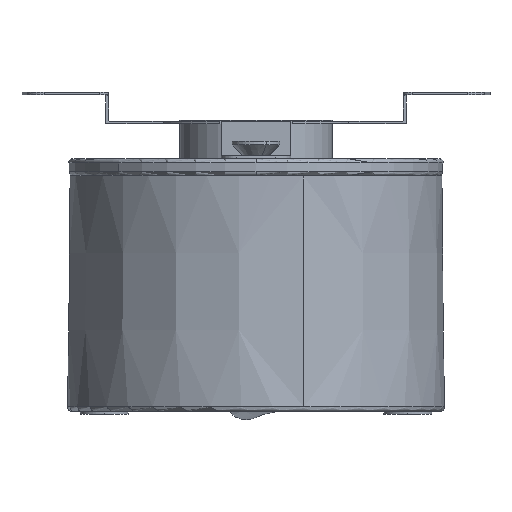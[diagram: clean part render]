
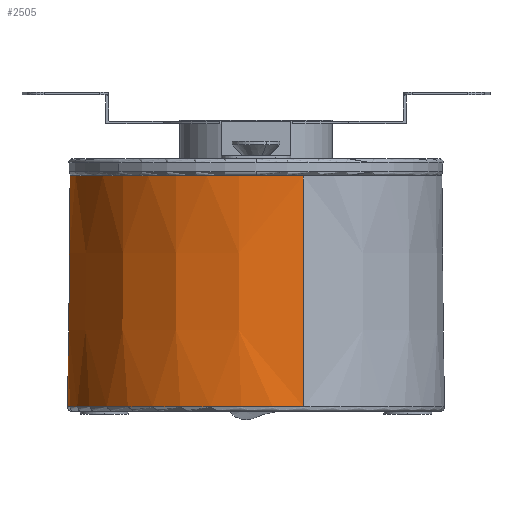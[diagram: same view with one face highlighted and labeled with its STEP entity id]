
A CAD part, left-side view. The second image highlights one B-rep face of the part: STEP entity #2505.
In plain terms, the highlighted conical face has half-angle 0.5 degrees and reference radius 21.63 mm.
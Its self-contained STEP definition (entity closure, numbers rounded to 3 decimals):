
#78 = EDGE_CURVE ( 'NONE', #12718, #6653, #17532, .T. ) ;
#338 = DIRECTION ( 'NONE',  ( 0., 0., -1. ) ) ;
#633 = ORIENTED_EDGE ( 'NONE', *, *, #78, .F. ) ;
#2277 = CARTESIAN_POINT ( 'NONE',  ( 20.696, 1.47, -6.3 ) ) ;
#2448 = DIRECTION ( 'NONE',  ( -0.967, -0.253, 0. ) ) ;
#2505 = ADVANCED_FACE ( 'NONE', ( #23526 ), #26948, .T. ) ;
#2600 = EDGE_CURVE ( 'NONE', #28193, #18110, #26765, .T. ) ;
#5562 = ORIENTED_EDGE ( 'NONE', *, *, #31948, .T. ) ;
#6653 = VERTEX_POINT ( 'NONE', #21747 ) ;
#6669 = CARTESIAN_POINT ( 'NONE',  ( 0.27, 17.67, -32.796 ) ) ;
#8357 = CARTESIAN_POINT ( 'NONE',  ( 0., -3.954, -32.796 ) ) ;
#9474 = CARTESIAN_POINT ( 'NONE',  ( -20.919, -9.436, -32.796 ) ) ;
#9817 = CARTESIAN_POINT ( 'NONE',  ( 7.741, 16.567, -31.187 ) ) ;
#10715 = VERTEX_POINT ( 'NONE', #9474 ) ;
#11500 = AXIS2_PLACEMENT_3D ( 'NONE', #30197, #17159, #17664 ) ;
#12147 = AXIS2_PLACEMENT_3D ( 'NONE', #33458, #28662, #2448 ) ;
#12387 = CARTESIAN_POINT ( 'NONE',  ( 0.27, 17.67, -32.796 ) ) ;
#12718 = VERTEX_POINT ( 'NONE', #2277 ) ;
#13958 = VECTOR ( 'NONE', #17494, 1000. ) ;
#13985 = EDGE_CURVE ( 'NONE', #10715, #28193, #22881, .T. ) ;
#15127 = CARTESIAN_POINT ( 'NONE',  ( 20.158, 4.049, -27.549 ) ) ;
#15186 = EDGE_LOOP ( 'NONE', ( #633, #5562, #26081, #19703, #15734 ) ) ;
#15716 = DIRECTION ( 'NONE',  ( -0.008, -0.002, -1. ) ) ;
#15734 = ORIENTED_EDGE ( 'NONE', *, *, #33302, .F. ) ;
#15804 = CARTESIAN_POINT ( 'NONE',  ( 20.871, 1.516, -27.132 ) ) ;
#17159 = DIRECTION ( 'NONE',  ( 0., 0., 1. ) ) ;
#17494 = DIRECTION ( 'NONE',  ( 0.008, 0.002, -1. ) ) ;
#17532 = CIRCLE ( 'NONE', #11500, 21.394 ) ;
#17664 = DIRECTION ( 'NONE',  ( 0.906, 0.424, 0. ) ) ;
#17702 = CARTESIAN_POINT ( 'NONE',  ( 19.255, 6.032, -27.963 ) ) ;
#17958 = LINE ( 'NONE', #28243, #23359 ) ;
#18110 = VERTEX_POINT ( 'NONE', #18882 ) ;
#18882 = CARTESIAN_POINT ( 'NONE',  ( 20.871, 1.516, -27.132 ) ) ;
#19703 = ORIENTED_EDGE ( 'NONE', *, *, #13985, .F. ) ;
#20292 = CARTESIAN_POINT ( 'NONE',  ( 13.812, 12.979, -29.765 ) ) ;
#20797 = CARTESIAN_POINT ( 'NONE',  ( 3.981, 17.616, -31.923 ) ) ;
#21575 = DIRECTION ( 'NONE',  ( -0.923, -0.384, 0. ) ) ;
#21747 = CARTESIAN_POINT ( 'NONE',  ( -20.696, -9.377, -6.3 ) ) ;
#22881 = CIRCLE ( 'NONE', #28345, 21.626 ) ;
#23359 = VECTOR ( 'NONE', #15716, 1000. ) ;
#23526 = FACE_OUTER_BOUND ( 'NONE', #15186, .T. ) ;
#25601 = CARTESIAN_POINT ( 'NONE',  ( 20.792, 1.812, -27.178 ) ) ;
#25859 = LINE ( 'NONE', #31017, #13958 ) ;
#26081 = ORIENTED_EDGE ( 'NONE', *, *, #2600, .F. ) ;
#26765 = B_SPLINE_CURVE_WITH_KNOTS ( 'NONE', 3,
 ( #12387, #20797, #9817, #20292, #30736, #17702, #15127, #25601, #27253, #15804 ),
 .UNSPECIFIED., .F., .F.,
 ( 4, 2, 2, 2, 4 ),
 ( 0., 0.229, 0.433, 0.565, 0.574 ),
 .UNSPECIFIED. ) ;
#26948 = CONICAL_SURFACE ( 'NONE', #12147, 21.63, 0.009 ) ;
#27253 = CARTESIAN_POINT ( 'NONE',  ( 20.833, 1.665, -27.154 ) ) ;
#28193 = VERTEX_POINT ( 'NONE', #6669 ) ;
#28243 = CARTESIAN_POINT ( 'NONE',  ( -20.923, -9.437, -33.299 ) ) ;
#28345 = AXIS2_PLACEMENT_3D ( 'NONE', #8357, #338, #21575 ) ;
#28662 = DIRECTION ( 'NONE',  ( 0., 0., -1. ) ) ;
#30197 = CARTESIAN_POINT ( 'NONE',  ( 0., -3.954, -6.3 ) ) ;
#30736 = CARTESIAN_POINT ( 'NONE',  ( 16.272, 10.623, -29.075 ) ) ;
#31017 = CARTESIAN_POINT ( 'NONE',  ( 20.923, 1.529, -33.299 ) ) ;
#31948 = EDGE_CURVE ( 'NONE', #12718, #18110, #25859, .T. ) ;
#33302 = EDGE_CURVE ( 'NONE', #6653, #10715, #17958, .T. ) ;
#33458 = CARTESIAN_POINT ( 'NONE',  ( 0., -3.954, -33.299 ) ) ;
